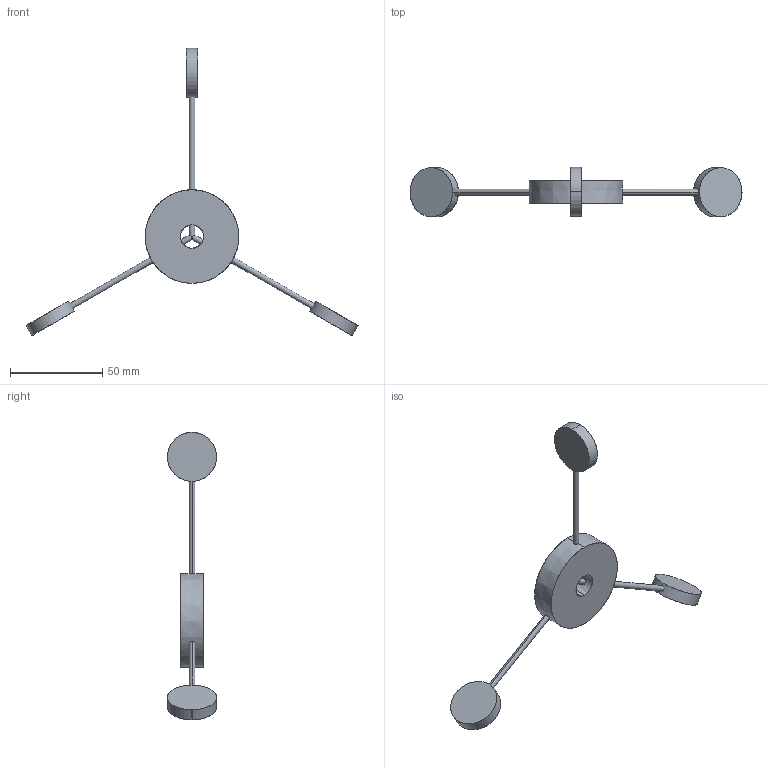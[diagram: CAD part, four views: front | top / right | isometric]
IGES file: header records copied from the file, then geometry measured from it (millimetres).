
Start section: SolidWorks IGES file using analytic representation for surfaces
Global section: file name: C:\Users\Bud\Documents\GitHub\telemetry\Hardware\Masthead hardware\IGES\wind speed indicator.IGS; native system: SolidWorks 2011; preprocessor: SolidWorks 2011; author: Bud; date: 131225.211925; units: inch
Bounding box: 180.25 x 26.67 x 156.1 mm (x, y, z)
Surface area: 12948.5 mm2 (no closed solid volume)
Topology: 0 solids, 0 shells, 33 faces, 926 edges, 926 vertices
Faces by surface type: revolution 22, bspline 11
